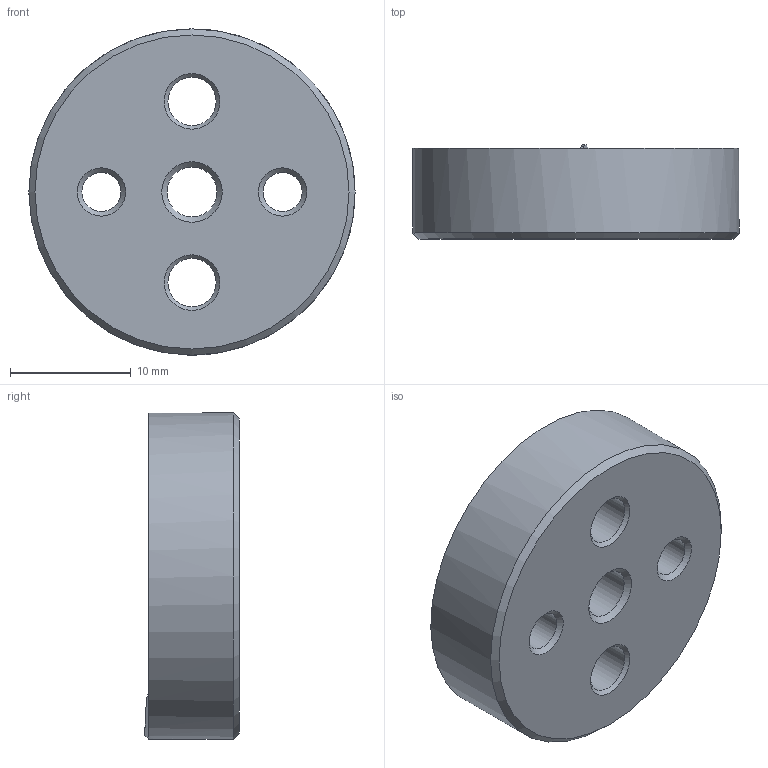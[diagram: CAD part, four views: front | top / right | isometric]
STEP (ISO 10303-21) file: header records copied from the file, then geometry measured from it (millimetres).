
FILE_DESCRIPTION( ( 'STEP AP203' ), '1' );
FILE_NAME( 'C:/Temp/Ganter_Step_05_03_2020/data/3_2/gn187_4/gn187_4_st/Serrated locking plate GN 187.4-27-60-C-ST.stp', '2020-03-13T05:25:42', ( 'License CC BY-ND 4.0' ), ( 'CADENAS' ), ' ', 'PARTsolutions', ' ' );
FILE_SCHEMA( ( 'CONFIG_CONTROL_DESIGN' ) );
Length unit declared in the file: millimetre
Products named in the file (1): _Serrated locking plate GN 187.4-27-60-C-ST
Bounding box: 27 x 7.84 x 27 mm (x, y, z)
Volume: 3618.9 mm3; surface area: 2071.1 mm2
Topology: 1 solids, 1 shells, 31 faces, 77 edges, 48 vertices
Faces by surface type: cone 15, cylinder 9, plane 7
Full cylindrical faces by diameter (mm): 3.242 x2, 4 x2, 4.134 x1, 19.5 x1, 27 x1
Entity records: 960 total; most frequent: CARTESIAN_POINT 241, DIRECTION 146, ORIENTED_EDGE 112, AXIS2_PLACEMENT_3D 70, EDGE_LOOP 59, EDGE_CURVE 56, VERTEX_POINT 45, FACE_OUTER_BOUND 38
